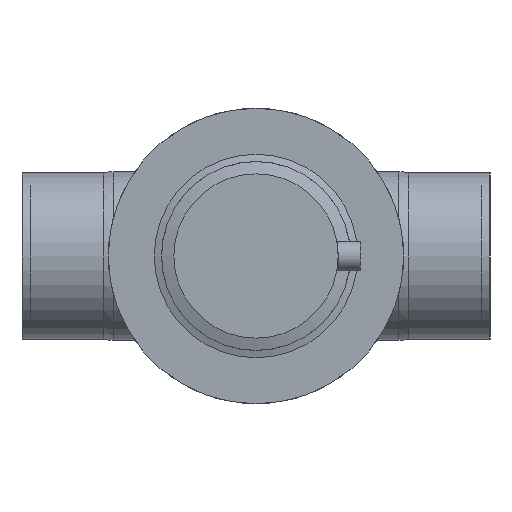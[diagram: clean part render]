
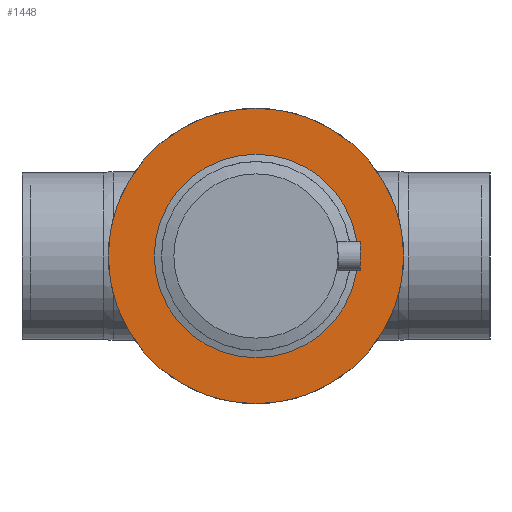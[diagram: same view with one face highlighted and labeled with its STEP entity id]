
A CAD part, front view. The second image highlights one B-rep face of the part: STEP entity #1448.
In plain terms, the highlighted planar face has unit normal (0, -1, 0).
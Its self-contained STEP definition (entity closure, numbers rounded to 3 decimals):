
#104=FACE_BOUND('',#351,.T.);
#139=PLANE('',#1740);
#226=FACE_OUTER_BOUND('',#350,.T.);
#350=EDGE_LOOP('',(#1244,#1245));
#351=EDGE_LOOP('',(#1246,#1247));
#573=CIRCLE('',#1738,57.5);
#574=CIRCLE('',#1739,57.5);
#575=CIRCLE('',#1741,90.);
#576=CIRCLE('',#1742,90.);
#722=VERTEX_POINT('',#2762);
#723=VERTEX_POINT('',#2764);
#724=VERTEX_POINT('',#2768);
#725=VERTEX_POINT('',#2769);
#904=EDGE_CURVE('',#723,#722,#573,.T.);
#905=EDGE_CURVE('',#722,#723,#574,.T.);
#906=EDGE_CURVE('',#724,#725,#575,.T.);
#907=EDGE_CURVE('',#725,#724,#576,.T.);
#1244=ORIENTED_EDGE('',*,*,#906,.F.);
#1245=ORIENTED_EDGE('',*,*,#907,.F.);
#1246=ORIENTED_EDGE('',*,*,#904,.T.);
#1247=ORIENTED_EDGE('',*,*,#905,.T.);
#1448=ADVANCED_FACE('',(#226,#104),#139,.F.);
#1738=AXIS2_PLACEMENT_3D('',#2765,#2206,#2207);
#1739=AXIS2_PLACEMENT_3D('',#2766,#2208,#2209);
#1740=AXIS2_PLACEMENT_3D('',#2767,#2210,#2211);
#1741=AXIS2_PLACEMENT_3D('',#2770,#2212,#2213);
#1742=AXIS2_PLACEMENT_3D('',#2771,#2214,#2215);
#2206=DIRECTION('center_axis',(0.,1.,0.));
#2207=DIRECTION('ref_axis',(1.,0.,0.));
#2208=DIRECTION('center_axis',(0.,1.,0.));
#2209=DIRECTION('ref_axis',(1.,0.,0.));
#2210=DIRECTION('center_axis',(0.,1.,0.));
#2211=DIRECTION('ref_axis',(0.,0.,1.));
#2212=DIRECTION('center_axis',(0.,1.,0.));
#2213=DIRECTION('ref_axis',(-1.,0.,0.));
#2214=DIRECTION('center_axis',(0.,1.,0.));
#2215=DIRECTION('ref_axis',(-1.,0.,0.));
#2762=CARTESIAN_POINT('',(57.5,-14.9,0.));
#2764=CARTESIAN_POINT('',(-57.5,-14.9,0.));
#2765=CARTESIAN_POINT('Origin',(0.,-14.9,0.));
#2766=CARTESIAN_POINT('Origin',(0.,-14.9,0.));
#2767=CARTESIAN_POINT('Origin',(-57.5,-14.9,0.));
#2768=CARTESIAN_POINT('',(-90.,-14.9,0.));
#2769=CARTESIAN_POINT('',(90.,-14.9,0.));
#2770=CARTESIAN_POINT('Origin',(0.,-14.9,0.));
#2771=CARTESIAN_POINT('Origin',(0.,-14.9,0.));
